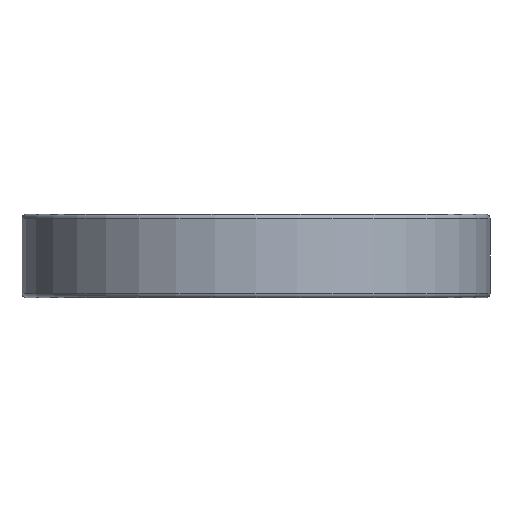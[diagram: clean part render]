
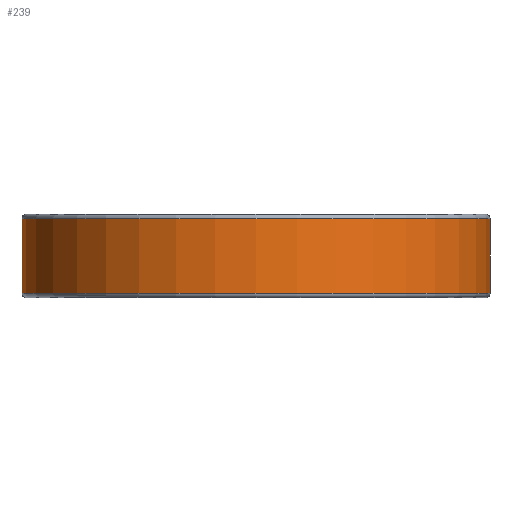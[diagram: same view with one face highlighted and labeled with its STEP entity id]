
A CAD part, front view. The second image highlights one B-rep face of the part: STEP entity #239.
In plain terms, the highlighted cylindrical face has radius 22.5 mm (diameter 45 mm), a full revolution.
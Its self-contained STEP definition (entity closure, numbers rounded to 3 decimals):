
#23=LINE('',#444,#32);
#32=VECTOR('',#363,22.5);
#39=CYLINDRICAL_SURFACE('',#293,22.5);
#57=FACE_OUTER_BOUND('',#76,.T.);
#76=EDGE_LOOP('',(#189,#190,#191,#192));
#100=CIRCLE('',#290,22.5);
#103=CIRCLE('',#294,22.5);
#121=VERTEX_POINT('',#436);
#123=VERTEX_POINT('',#442);
#144=EDGE_CURVE('',#121,#121,#100,.T.);
#147=EDGE_CURVE('',#123,#123,#103,.T.);
#148=EDGE_CURVE('',#123,#121,#23,.T.);
#189=ORIENTED_EDGE('',*,*,#147,.F.);
#190=ORIENTED_EDGE('',*,*,#148,.T.);
#191=ORIENTED_EDGE('',*,*,#144,.F.);
#192=ORIENTED_EDGE('',*,*,#148,.F.);
#239=ADVANCED_FACE('',(#57),#39,.T.);
#290=AXIS2_PLACEMENT_3D('',#437,#353,#354);
#293=AXIS2_PLACEMENT_3D('',#441,#359,#360);
#294=AXIS2_PLACEMENT_3D('',#443,#361,#362);
#353=DIRECTION('center_axis',(0.,0.,1.));
#354=DIRECTION('ref_axis',(1.,0.,0.));
#359=DIRECTION('center_axis',(0.,0.,-1.));
#360=DIRECTION('ref_axis',(-1.,0.,0.));
#361=DIRECTION('center_axis',(0.,0.,-1.));
#362=DIRECTION('ref_axis',(1.,0.,0.));
#363=DIRECTION('',(0.,0.,1.));
#436=CARTESIAN_POINT('',(22.5,0.,-0.4));
#437=CARTESIAN_POINT('Origin',(0.,0.,-0.4));
#441=CARTESIAN_POINT('Origin',(0.,0.,-4.));
#442=CARTESIAN_POINT('',(22.5,0.,-7.6));
#443=CARTESIAN_POINT('Origin',(0.,0.,-7.6));
#444=CARTESIAN_POINT('',(22.5,0.,-4.));
